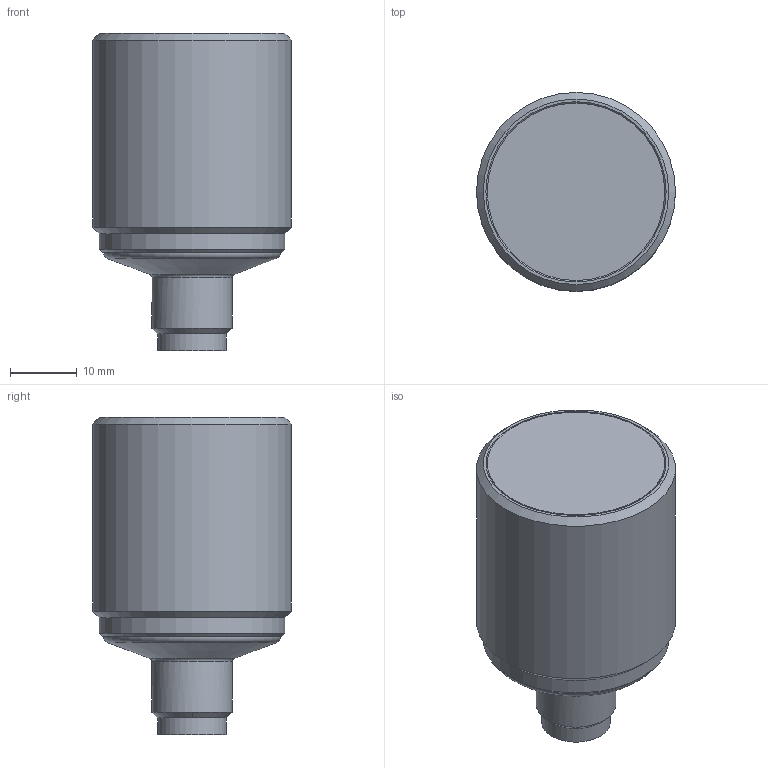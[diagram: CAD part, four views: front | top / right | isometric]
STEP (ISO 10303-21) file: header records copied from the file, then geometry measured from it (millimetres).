
FILE_DESCRIPTION(/* description */ (''),/* implementation_level */ '2;1');
FILE_NAME(/* name */ 'Z:\PG_031_033_365_369\031\progetti\_assemblies 3D\Contorno semplificato\ICS30 IP69K\ics30_short_flush_asm.stp',/* time_stamp */ '2015-05-07T15:31:24+02:00',/* author */ ('ddecol'),/* organization */ (''),/* preprocessor_version */ 'ST-DEVELOPER v15.6',/* originating_system */ 'Autodesk Inventor 2015',/* authorisation */ '');
FILE_SCHEMA (('AUTOMOTIVE_DESIGN { 1 0 10303 214 3 1 1 }'));
Length unit declared in the file: millimetre
Products named in the file (1): ics30_short_flush_asm
Bounding box: 29.8 x 29.8 x 47.5 mm (x, y, z)
Surface area: 5453.8 mm2 (no closed solid volume)
Topology: 0 solids, 7 shells, 34 faces, 135 edges, 105 vertices
Faces by surface type: cone 11, cylinder 10, plane 6, sphere 5, torus 2
Full cylindrical faces by diameter (mm): 1 x4, 10.3 x1, 12 x1, 27.8 x1, 29.8 x1
Entity records: 1693 total; most frequent: CARTESIAN_POINT 744, DIRECTION 183, ORIENTED_EDGE 136, EDGE_CURVE 94, AXIS2_PLACEMENT_3D 86, VERTEX_POINT 85, EDGE_LOOP 57, CIRCLE 43
